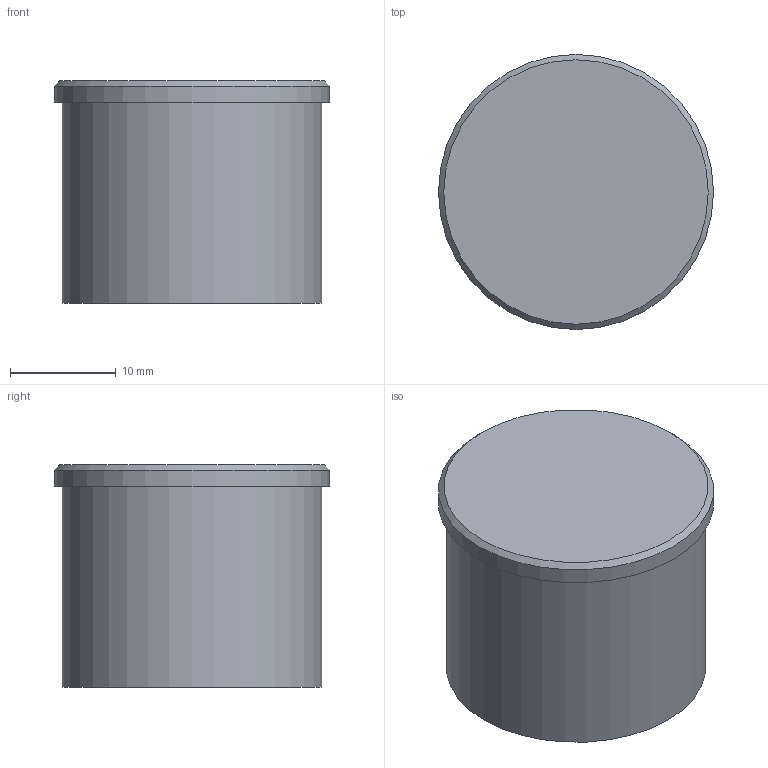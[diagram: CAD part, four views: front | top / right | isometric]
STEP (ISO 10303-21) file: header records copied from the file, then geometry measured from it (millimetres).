
FILE_DESCRIPTION (( 'STEP AP214' ), '1' );
FILE_NAME ('ﾂﾇﾊﾂ3ﾀ.STEP', '2021-05-19T08:08:48', ( '' ), ( '' ), 'SwSTEP 2.0', 'SolidWorks 2018', '' );
FILE_SCHEMA (( 'AUTOMOTIVE_DESIGN' ));
Length unit declared in the file: millimetre
Products named in the file (1): ﾂﾇﾊﾂ3ﾀ
Bounding box: 26 x 26 x 21 mm (x, y, z)
Volume: 5230.7 mm3; surface area: 3643.6 mm2
Topology: 1 solids, 1 shells, 8 faces, 11 edges, 7 vertices
Faces by surface type: plane 4, cylinder 3, cone 1
Full cylindrical faces by diameter (mm): 19.5 x1, 24.5 x1, 26 x1
Entity records: 188 total; most frequent: DIRECTION 32, CARTESIAN_POINT 23, AXIS2_PLACEMENT_3D 16, ORIENTED_EDGE 14, EDGE_LOOP 14, FACE_OUTER_BOUND 11, ADVANCED_FACE 8, VERTEX_POINT 7
